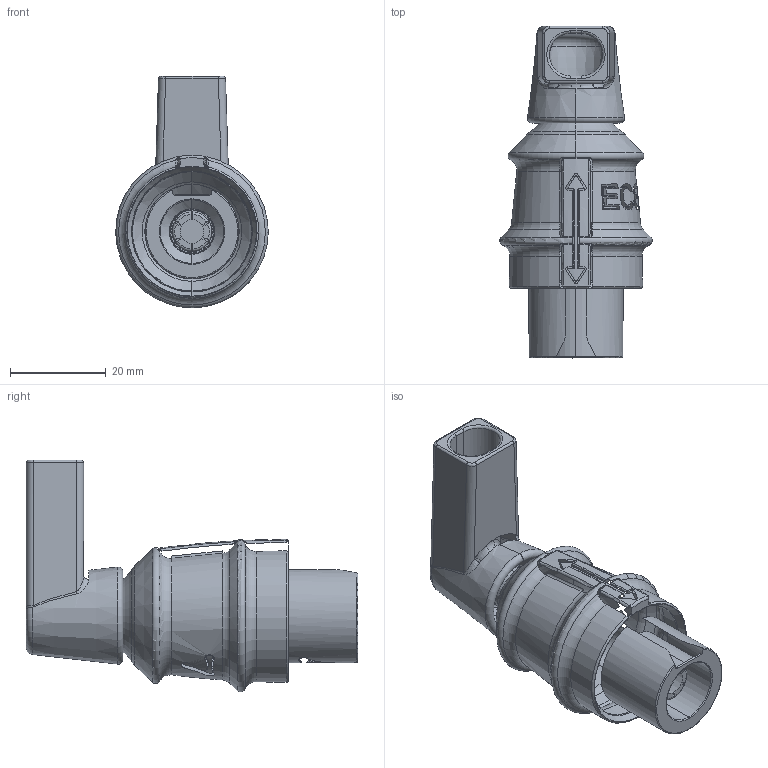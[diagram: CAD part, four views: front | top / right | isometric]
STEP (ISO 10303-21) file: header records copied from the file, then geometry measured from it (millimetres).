
FILE_DESCRIPTION((''),'2;1');
FILE_NAME('LCN-EC8X1-INLM_ASM','2023-07-04T21:35:53',('Neil'),(''),'CREO PARAMETRIC BY PTC INC, 2020414','CREO PARAMETRIC BY PTC INC, 2020414','');
FILE_SCHEMA(('CONFIG_CONTROL_DESIGN'));
Length unit declared in the file: millimetre
Products named in the file (1): LCN-EC8X1-INLM_ASM
Bounding box: 31.89 x 69.35 x 48.45 mm (x, y, z)
Surface area: 10311.8 mm2 (no closed solid volume)
Topology: 0 solids, 28 shells, 147 faces, 1049 edges, 922 vertices
Faces by surface type: torus 54, bspline 29, plane 26, cylinder 24, cone 14
Entity records: 14837 total; most frequent: CARTESIAN_POINT 8004, ORIENTED_EDGE 1251, DIRECTION 1132, EDGE_CURVE 1049, VERTEX_POINT 922, VECTOR 442, LINE 442, B_SPLINE_CURVE_WITH_KNOTS 381
